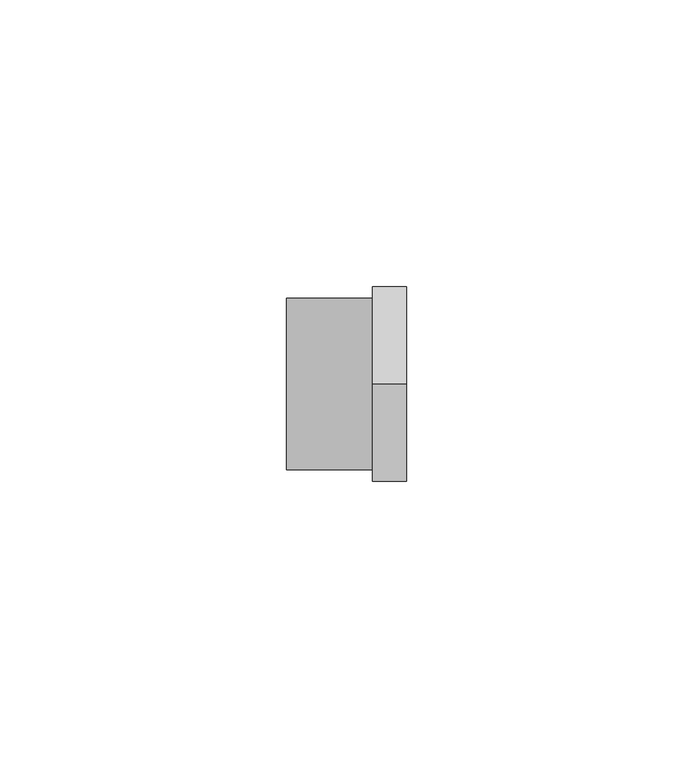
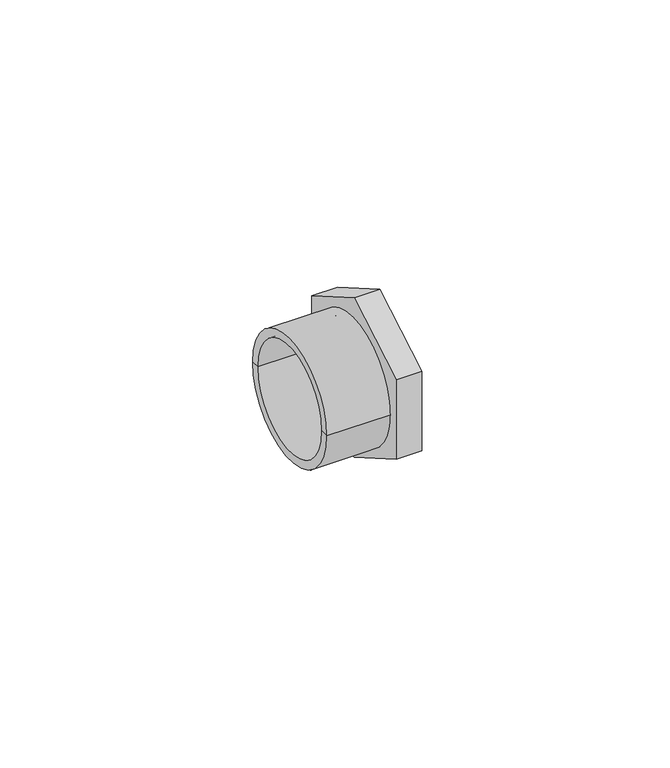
"""IFC4 building model written with IfcOpenShell, lengths in millimetres: pipe fitting geometry."""

import ifcopenshell
import ifcopenshell.guid

model = None  # the IFC model being written
_history = None  # IfcOwnerHistory: only IFC2X3 demands one
_inside = {}  # id of a spatial element -> (the spatial element, [elements in it])
_under = {}  # id of a project, library or spatial element -> (it, [spatial elements below it])
_declared = {}  # id of a project -> (the project, [libraries it declares])
_typed = {}  # id of a type object -> (the type object, [elements of that type])
_made_of = {}  # id of a material, layer set ... -> (it, [elements and type objects made of it])


def new_model(schema):
    """Start an empty IFC model of exactly this schema.

    Asked for "IFC4X3", IfcOpenShell would pick the latest addendum, in which some entities
    have other attributes; the version numbers below select the first issue.
    IFC2X3 requires an IfcOwnerHistory on every rooted entity: one is made here for all.
    """
    global model, _history
    if schema == "IFC4X3":
        model = ifcopenshell.file(schema_version=(4, 3, 0, 0))
    else:
        model = ifcopenshell.file(schema=schema)
    _inside.clear()
    _under.clear()
    _declared.clear()
    _typed.clear()
    _made_of.clear()
    _history = None
    if model.schema == "IFC2X3":
        org = make("IfcOrganization", Name="unknown")
        user = make(
            "IfcPersonAndOrganization",
            ThePerson=make("IfcPerson", FamilyName="unknown"),
            TheOrganization=org,
        )
        app = make(
            "IfcApplication",
            ApplicationDeveloper=org,
            Version="unknown",
            ApplicationFullName="unknown",
            ApplicationIdentifier="unknown",
        )
        _history = make(
            "IfcOwnerHistory",
            OwningUser=user,
            OwningApplication=app,
            ChangeAction="ADDED",
            CreationDate=0,
        )
    return model


def make(cls, **values):
    """One entity of the class cls with the attributes given. An attribute that is None is left unset."""
    return model.create_entity(
        cls, **{name: value for name, value in values.items() if value is not None}
    )


def rooted(cls, **values):
    """An entity with a GlobalId (a new one), such as an element, a storey or a relation."""
    return make(cls, GlobalId=ifcopenshell.guid.new(), OwnerHistory=_history, **values)


def si_unit(unit_type, name, prefix=None):
    """IfcSIUnit, for example si_unit("LENGTHUNIT", "METRE", prefix="MILLI")."""
    return make("IfcSIUnit", UnitType=unit_type, Prefix=prefix, Name=name)


def assignment(units):
    """IfcUnitAssignment: the units of a project."""
    return None if units is None else make("IfcUnitAssignment", Units=units)


def point(xyz):
    """IfcCartesianPoint."""
    return None if xyz is None else make("IfcCartesianPoint", Coordinates=xyz)


def direction(xyz):
    """IfcDirection."""
    return None if xyz is None else make("IfcDirection", DirectionRatios=xyz)


def frame(location, z_axis=None, x_axis=None):
    """IfcAxis2Placement3D, a coordinate frame: its origin and axes. An axis left out is left unset."""
    return make(
        "IfcAxis2Placement3D",
        Location=point(location),
        Axis=direction(z_axis),
        RefDirection=direction(x_axis),
    )


def origin():
    """The frame at (0, 0, 0) with its axes left unset."""
    return frame((0.0, 0.0, 0.0))


def place(relative_to, where):
    """IfcLocalPlacement: puts the frame where relative to a parent placement (None: the world)."""
    return make(
        "IfcLocalPlacement", PlacementRelTo=relative_to, RelativePlacement=where
    )


def context(
    kind, dimensions, precision=None, world=None, true_north=None, identifier=None
):
    """IfcGeometricRepresentationContext, for example the 3D "Model" context."""
    return make(
        "IfcGeometricRepresentationContext",
        ContextIdentifier=identifier,
        ContextType=kind,
        CoordinateSpaceDimension=dimensions,
        Precision=precision,
        WorldCoordinateSystem=world,
        TrueNorth=true_north,
    )


def project(units=None, contexts=None):
    """IfcProject with its units and contexts."""
    return rooted(
        "IfcProject",
        Name="project",
        RepresentationContexts=contexts,
        UnitsInContext=assignment(units),
    )


def spatial(cls, under=None, at=None, **own):
    """A site, building, storey or space (cls), placed at a placement, below another one or the project."""
    s = rooted(cls, ObjectPlacement=at, **own)
    if under is not None:
        _under.setdefault(under.id(), (under, []))[1].append(s)
    return s


def polyline(points):
    """IfcPolyline through the points."""
    return make("IfcPolyline", Points=[point(p) for p in points])


def circle_curve(where, radius):
    """IfcCircle in the frame where."""
    return make("IfcCircle", Position=where, Radius=radius)


def outline(outer, holes=None, kind="AREA"):
    """IfcArbitraryClosedProfileDef: a profile drawn as a closed curve; with holes, ...WithVoids."""
    if holes is None:
        return make("IfcArbitraryClosedProfileDef", ProfileType=kind, OuterCurve=outer)
    return make(
        "IfcArbitraryProfileDefWithVoids",
        ProfileType=kind,
        OuterCurve=outer,
        InnerCurves=holes,
    )


def extrude(swept, where, along, depth):
    """IfcExtrudedAreaSolid: the profile swept, set in the frame where, extruded along a direction by depth."""
    return make(
        "IfcExtrudedAreaSolid",
        SweptArea=swept,
        Position=where,
        ExtrudedDirection=direction(along),
        Depth=depth,
    )


def shape(context_of_items, identifier, shape_type, items):
    """IfcShapeRepresentation: the items that make up one representation, for example the "Body"."""
    return make(
        "IfcShapeRepresentation",
        ContextOfItems=context_of_items,
        RepresentationIdentifier=identifier,
        RepresentationType=shape_type,
        Items=items,
    )


def source(mapping_origin, context_of_items, identifier, shape_type, items):
    """IfcRepresentationMap: a shape defined once, which mapped items show again and again."""
    return make(
        "IfcRepresentationMap",
        MappingOrigin=mapping_origin,
        MappedRepresentation=shape(context_of_items, identifier, shape_type, items),
    )


def transform(
    local_origin,
    x_axis=None,
    y_axis=None,
    z_axis=None,
    scale=None,
    scale2=None,
    scale3=None,
    uniform=True,
):
    """IfcCartesianTransformationOperator3D, or its non-uniform kind. x_axis, y_axis, z_axis: its Axis1, 2, 3."""
    if uniform:
        return make(
            "IfcCartesianTransformationOperator3D",
            Axis1=direction(x_axis),
            Axis2=direction(y_axis),
            LocalOrigin=point(local_origin),
            Scale=scale,
            Axis3=direction(z_axis),
        )
    return make(
        "IfcCartesianTransformationOperator3DnonUniform",
        Axis1=direction(x_axis),
        Axis2=direction(y_axis),
        LocalOrigin=point(local_origin),
        Scale=scale,
        Axis3=direction(z_axis),
        Scale2=scale2,
        Scale3=scale3,
    )


def mapped(mapping_source, mapping_target):
    """IfcMappedItem: shows the shape of a source again, moved by a transform."""
    return make(
        "IfcMappedItem", MappingSource=mapping_source, MappingTarget=mapping_target
    )


def made_of(thing, what):
    """Note that an element or type object is made of a material, layer set ...; save() writes the relation."""
    if what is not None:
        _made_of.setdefault(what.id(), (what, []))[1].append(thing)
    return thing


def element(
    cls,
    number,
    at=None,
    inside=None,
    cuts=None,
    type_object=None,
    material=None,
    context=None,
    identifier="Body",
    shape_type=None,
    held_by="IfcProductDefinitionShape",
    body=None,
    shapes=None,
    **own,
):
    """One element of the class cls, such as IfcWall. Its Tag is "e" and its number.

    at: its placement. inside: the storey or other place that contains it. cuts: it is an
    opening in that element (IfcRelVoidsElement). A single representation is given by context,
    identifier, shape_type and body (its items); several are given by shapes. held_by: the class
    of the entity that holds the representations. save() writes the other relations.
    """
    e = rooted(cls, Tag="e%d" % number, ObjectPlacement=at, **own)
    if body is not None:
        shapes = [shape(context, identifier, shape_type, body)]
    if shapes is not None:
        e.Representation = make(held_by, Representations=shapes)
    if inside is not None:
        _inside.setdefault(inside.id(), (inside, []))[1].append(e)
    if cuts is not None:
        rooted(
            "IfcRelVoidsElement", RelatingBuildingElement=cuts, RelatedOpeningElement=e
        )
    if type_object is not None:
        _typed.setdefault(type_object.id(), (type_object, []))[1].append(e)
    return made_of(e, material)


def aggregate(whole, parts):
    """IfcRelAggregates: a whole, such as a stair, and the parts it consists of."""
    return rooted("IfcRelAggregates", RelatingObject=whole, RelatedObjects=parts)


def save(model, path):
    """Write the relations noted so far, then the file.

    IfcRelAggregates (storeys below a building ...), IfcRelContainedInSpatialStructure (elements
    in a storey), IfcRelDefinesByType, IfcRelAssociatesMaterial and IfcRelDeclares: one each for
    every whole, place, type object, material and project.
    """
    for whole, parts in _under.values():
        aggregate(whole, parts)
    for where, things in _inside.values():
        rooted(
            "IfcRelContainedInSpatialStructure",
            RelatedElements=things,
            RelatingStructure=where,
        )
    for kind, things in _typed.values():
        rooted("IfcRelDefinesByType", RelatedObjects=things, RelatingType=kind)
    for what, things in _made_of.values():
        rooted("IfcRelAssociatesMaterial", RelatedObjects=things, RelatingMaterial=what)
    for by, libraries in _declared.values():
        rooted("IfcRelDeclares", RelatingContext=by, RelatedDefinitions=libraries)
    model.write(path)


def plane_surface(at):
    """IfcPlane: the flat surface through the origin of the frame at, square to its z axis."""
    return make("IfcPlane", Position=at)


def cylinder_surface(at, radius):
    """IfcCylindricalSurface: all points at the distance radius from the z axis of the frame at."""
    return make("IfcCylindricalSurface", Position=at, Radius=radius)


def revolved_surface(curve, axis_point, axis_direction):
    """IfcSurfaceOfRevolution: the curve turned about the line through axis_point along axis_direction."""
    return make(
        "IfcSurfaceOfRevolution",
        SweptCurve=make("IfcArbitraryOpenProfileDef", ProfileType="CURVE", Curve=curve),
        AxisPosition=make("IfcAxis1Placement", Location=point(axis_point), Axis=direction(axis_direction)),
    )


def advanced_brep(points, edges, surfaces, faces):
    """IfcAdvancedBrep: a solid bounded by faces that lie on surfaces and meet in shared edges.

    An edge is (start, end): straight between two places in points (the first is 0);
    or (start, end, curve); or (start, end, curve, False) where it runs against its curve.
    A face is (place in surfaces, loops), or (place, loops, False) where it looks against
    its surface's normal. A loop lists edges by number (the first is 1), with a minus sign
    where the edge is run from its end to its start. The first loop is the outer one.
    """
    corners = [point(p) for p in points]
    vertices = [make("IfcVertexPoint", VertexGeometry=c) for c in corners]
    made = []
    for start, end, *more in edges:
        made.append(
            make(
                "IfcEdgeCurve",
                EdgeStart=vertices[start],
                EdgeEnd=vertices[end],
                EdgeGeometry=more[0] if more else make("IfcPolyline", Points=[corners[start], corners[end]]),
                SameSense=more[1] if len(more) > 1 else True,
            )
        )
    hull = []
    for where, loops, *sense in faces:
        bounds = []
        for j, loop in enumerate(loops):
            ring = [make("IfcOrientedEdge", EdgeElement=made[abs(k) - 1], Orientation=k > 0) for k in loop]
            bounds.append(
                make(
                    "IfcFaceOuterBound" if j == 0 else "IfcFaceBound",
                    Bound=make("IfcEdgeLoop", EdgeList=ring),
                    Orientation=True,
                )
            )
        hull.append(make("IfcAdvancedFace", Bounds=bounds, FaceSurface=surfaces[where], SameSense=sense[0] if sense else True))
    return make("IfcAdvancedBrep", Outer=make("IfcClosedShell", CfsFaces=hull))


def pipe_fitting_460bc015(model_context):
    return source(origin(), model_context, "Body", "SolidModel", [
        extrude(outline(polyline([(-17.0, -9.8149546), (-17.0, 9.8149546), (0.0, 19.6299092), (17.0, 9.8149546), (17.0, -9.8149546), (0.0, -19.6299092), (-17.0, -9.8149546)])), frame((-6.0, 0.0, 0.0), z_axis=(1.0, 0.0, 0.0), x_axis=(0.0, 1.0, 0.0)), (0.0, 0.0, 1.0), 6.0),
        advanced_brep(
        [(-21.0, -15.0, 0.0), (-21.0, 15.0, 0.0), (-6.0, 15.0, 0.0), (-6.0, -15.0, 0.0), (-21.0, -13.0, 0.0), (-21.0, 13.0, 0.0), (-6.0, -13.0, 0.0), (-6.0, 13.0, 0.0)],
        [
            (0, 1, circle_curve(frame((-21.0, 0.0, 0.0), z_axis=(1.0, 0.0, 0.0), x_axis=(0.0, 1.0, 0.0)), 15.0)),
            (1, 2),
            (2, 3, circle_curve(frame((-6.0, 0.0, 0.0), z_axis=(-1.0, 0.0, 0.0), x_axis=(0.0, 1.0, 0.0)), 15.0)),
            (3, 0),
            (1, 0, circle_curve(frame((-21.0, 0.0, 0.0), z_axis=(1.0, 0.0, 0.0), x_axis=(0.0, 1.0, 0.0)), 15.0)),
            (3, 2, circle_curve(frame((-6.0, 0.0, 0.0), z_axis=(-1.0, 0.0, 0.0), x_axis=(0.0, 1.0, 0.0)), 15.0)),
            (4, 5, circle_curve(frame((-21.0, 0.0, 0.0), z_axis=(1.0, 0.0, 0.0), x_axis=(0.0, 1.0, 0.0)), 13.0)),
            (5, 1),
            (0, 4),
            (5, 4, circle_curve(frame((-21.0, 0.0, 0.0), z_axis=(1.0, 0.0, 0.0), x_axis=(0.0, 1.0, 0.0)), 13.0)),
            (6, 7, circle_curve(frame((-6.0, 0.0, 0.0), z_axis=(1.0, 0.0, 0.0), x_axis=(0.0, 1.0, 0.0)), 13.0)),
            (7, 5),
            (4, 6),
            (7, 6, circle_curve(frame((-6.0, 0.0, 0.0), z_axis=(1.0, 0.0, 0.0), x_axis=(0.0, 1.0, 0.0)), 13.0)),
            (2, 7),
            (6, 3),
        ],
        [
            cylinder_surface(frame((-24.494729, 0.0, 0.0), z_axis=(-1.0, 0.0, 0.0), x_axis=(0.0, 1.0, 0.0)), 15.0),
            plane_surface(frame((-21.0, 0.0, 0.0), z_axis=(-1.0, 0.0, 0.0), x_axis=(0.0, 1.0, 0.0))),
            revolved_surface(polyline([(-21.0, 13.0, 0.0), (-6.0, 13.0, 0.0)]), (-24.494729, 0.0, 0.0), (-1.0, 0.0, 0.0)),
            plane_surface(frame((-6.0, 0.0, 0.0), z_axis=(1.0, 0.0, 0.0), x_axis=(0.0, 1.0, 0.0))),
        ],
        [
            (0, [[1, 2, 3, 4]]),
            (0, [[5, -4, 6, -2]]),
            (1, [[7, 8, -1, 9]]),
            (1, [[10, -9, -5, -8]]),
            (2, [[11, 12, -7, 13]]),
            (2, [[14, -13, -10, -12]]),
            (3, [[-3, 15, -11, 16]]),
            (3, [[-6, -16, -14, -15]]),
        ],
    ),
    ])


if __name__ == "__main__":
    model = new_model("IFC4")
    model_context = context("Model", 3, world=origin())
    ifc_project = project(units=[si_unit("LENGTHUNIT", "METRE", prefix="MILLI")], contexts=[model_context])
    site = spatial("IfcSite", under=ifc_project)
    building = spatial("IfcBuilding", under=site)
    placement = place(None, origin())
    pipe_fitting_shape = pipe_fitting_460bc015(model_context)
    element("IfcPipeFitting", 1, ObjectType="NLRS_50_PIF_UN_eindkap met binnendraad (brons)_geb : DN20-20 / Rp3/4\"-Rp3/4\"", at=placement, inside=building, context=model_context, shape_type="MappedRepresentation", body=[
        mapped(pipe_fitting_shape, transform((0.0, 0.0, 0.0), x_axis=(1.0, 0.0, 0.0), y_axis=(0.0, 1.0, 0.0), z_axis=(0.0, 0.0, 1.0))),
    ])
    save(model, "model.ifc")
